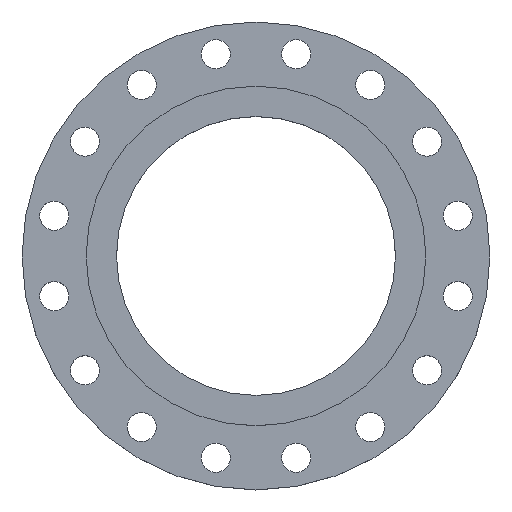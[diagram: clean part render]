
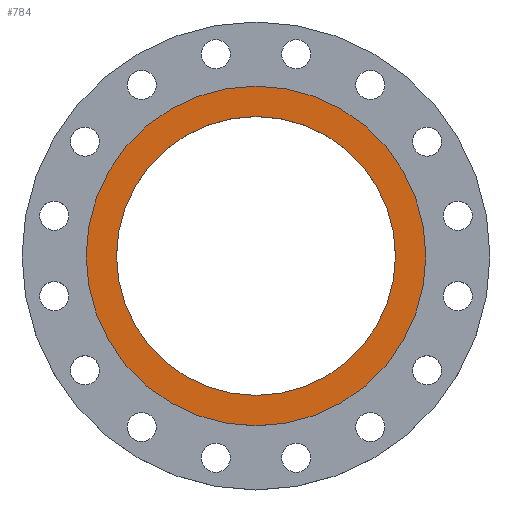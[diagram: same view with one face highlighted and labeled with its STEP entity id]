
A CAD part, top view. The second image highlights one B-rep face of the part: STEP entity #784.
In plain terms, the highlighted planar face has unit normal (0, 0, 1).
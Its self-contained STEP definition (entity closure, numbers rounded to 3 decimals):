
#28 = EDGE_CURVE ( 'NONE', #948, #720, #1084, .T. ) ;
#50 = DIRECTION ( 'NONE',  ( 1., 0., 0. ) ) ;
#52 = DIRECTION ( 'NONE',  ( 0., 0., 1. ) ) ;
#53 = CARTESIAN_POINT ( 'NONE',  ( 0., 0., 0. ) ) ;
#54 = PLANE ( 'NONE',  #608 ) ;
#55 = FACE_OUTER_BOUND ( 'NONE', #1161, .T. ) ;
#57 = FACE_BOUND ( 'NONE', #1263, .T. ) ;
#111 = CARTESIAN_POINT ( 'NONE',  ( -172.835, 0., 0. ) ) ;
#354 = CIRCLE ( 'NONE', #355, 210.5 ) ;
#355 = AXIS2_PLACEMENT_3D ( 'NONE', #870, #864, #863 ) ;
#366 = AXIS2_PLACEMENT_3D ( 'NONE', #1494, #1493, #1492 ) ;
#456 = DIRECTION ( 'NONE',  ( 1., 0., 0. ) ) ;
#457 = DIRECTION ( 'NONE',  ( 0., 0., 1. ) ) ;
#458 = CARTESIAN_POINT ( 'NONE',  ( 0., 0., 0. ) ) ;
#608 = AXIS2_PLACEMENT_3D ( 'NONE', #53, #52, #50 ) ;
#720 = VERTEX_POINT ( 'NONE', #111 ) ;
#784 = ADVANCED_FACE ( 'NONE', ( #57, #55 ), #54, .T. ) ;
#863 = DIRECTION ( 'NONE',  ( -1., 0., 0. ) ) ;
#864 = DIRECTION ( 'NONE',  ( 0., 0., -1. ) ) ;
#870 = CARTESIAN_POINT ( 'NONE',  ( 0., 0., 0. ) ) ;
#948 = VERTEX_POINT ( 'NONE', #1536 ) ;
#995 = EDGE_CURVE ( 'NONE', #1177, #1054, #1491, .T. ) ;
#1054 = VERTEX_POINT ( 'NONE', #1450 ) ;
#1084 = CIRCLE ( 'NONE', #1254, 172.835 ) ;
#1161 = EDGE_LOOP ( 'NONE', ( #1233, #1235 ) ) ;
#1177 = VERTEX_POINT ( 'NONE', #1378 ) ;
#1186 = AXIS2_PLACEMENT_3D ( 'NONE', #1334, #1331, #1332 ) ;
#1194 = CIRCLE ( 'NONE', #1186, 172.835 ) ;
#1229 = ORIENTED_EDGE ( 'NONE', *, *, #28, .F. ) ;
#1231 = ORIENTED_EDGE ( 'NONE', *, *, #1234, .F. ) ;
#1233 = ORIENTED_EDGE ( 'NONE', *, *, #995, .F. ) ;
#1234 = EDGE_CURVE ( 'NONE', #720, #948, #1194, .T. ) ;
#1235 = ORIENTED_EDGE ( 'NONE', *, *, #1325, .F. ) ;
#1254 = AXIS2_PLACEMENT_3D ( 'NONE', #458, #457, #456 ) ;
#1263 = EDGE_LOOP ( 'NONE', ( #1229, #1231 ) ) ;
#1325 = EDGE_CURVE ( 'NONE', #1054, #1177, #354, .T. ) ;
#1331 = DIRECTION ( 'NONE',  ( 0., 0., 1. ) ) ;
#1332 = DIRECTION ( 'NONE',  ( 1., 0., 0. ) ) ;
#1334 = CARTESIAN_POINT ( 'NONE',  ( 0., 0., 0. ) ) ;
#1378 = CARTESIAN_POINT ( 'NONE',  ( -210.5, 0., 0. ) ) ;
#1450 = CARTESIAN_POINT ( 'NONE',  ( 210.5, 0., 0. ) ) ;
#1491 = CIRCLE ( 'NONE', #366, 210.5 ) ;
#1492 = DIRECTION ( 'NONE',  ( -1., 0., 0. ) ) ;
#1493 = DIRECTION ( 'NONE',  ( 0., 0., -1. ) ) ;
#1494 = CARTESIAN_POINT ( 'NONE',  ( 0., 0., 0. ) ) ;
#1536 = CARTESIAN_POINT ( 'NONE',  ( 172.835, 0., 0. ) ) ;
